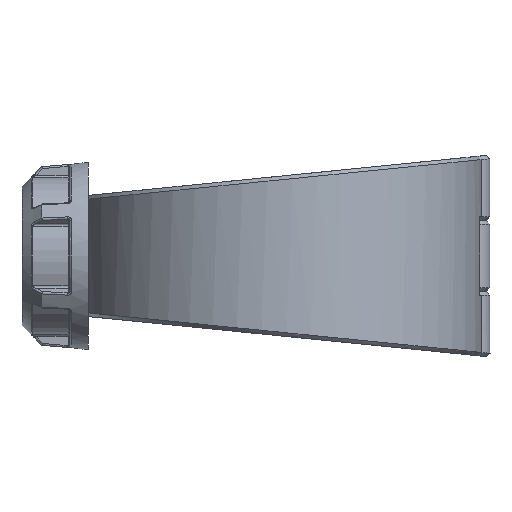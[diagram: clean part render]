
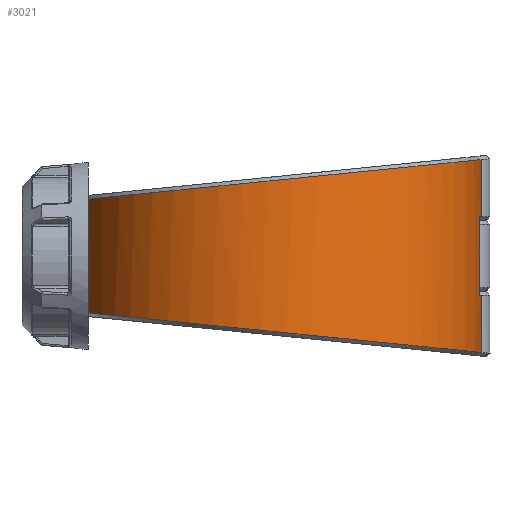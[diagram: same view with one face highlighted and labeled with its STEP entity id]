
A CAD part, left-side view. The second image highlights one B-rep face of the part: STEP entity #3021.
In plain terms, the highlighted cylindrical face has radius 110 mm (diameter 220 mm), a partial arc.
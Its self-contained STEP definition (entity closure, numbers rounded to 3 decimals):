
#212=FACE_OUTER_BOUND('',#416,.T.);
#416=EDGE_LOOP('',(#2055,#2056,#2057,#2058,#2059,#2060,#2061,#2062,#2063,
#2064,#2065,#2066));
#623=CIRCLE('',#3251,110.);
#626=CIRCLE('',#3256,110.);
#805=B_SPLINE_CURVE_WITH_KNOTS('',3,(#4512,#4513,#4514,#4515),
 .UNSPECIFIED.,.F.,.F.,(4,4),(-0.001,0.),.UNSPECIFIED.);
#806=B_SPLINE_CURVE_WITH_KNOTS('',3,(#4517,#4518,#4519,#4520),
 .UNSPECIFIED.,.F.,.F.,(4,4),(-3.053,-3.053),
 .UNSPECIFIED.);
#807=B_SPLINE_CURVE_WITH_KNOTS('',3,(#4521,#4522,#4523,#4524,#4525,#4526,
#4527,#4528,#4529,#4530),.UNSPECIFIED.,.F.,.F.,(4,1,1,1,1,1,1,4),(0.317,
0.657,1.057,1.458,1.859,2.26,
2.661,3.053),.UNSPECIFIED.);
#808=B_SPLINE_CURVE_WITH_KNOTS('',3,(#4532,#4533,#4534,#4535,#4536,#4537,
#4538,#4539,#4540,#4541),.UNSPECIFIED.,.F.,.F.,(4,1,1,1,1,1,1,4),(-3.053,
-2.661,-2.26,-1.859,-1.458,
-1.057,-0.657,-0.317),.UNSPECIFIED.);
#809=B_SPLINE_CURVE_WITH_KNOTS('',3,(#4543,#4544,#4545,#4546),
 .UNSPECIFIED.,.F.,.F.,(4,4),(3.053,3.053),
 .UNSPECIFIED.);
#810=B_SPLINE_CURVE_WITH_KNOTS('',3,(#4548,#4549,#4550,#4551),
 .UNSPECIFIED.,.F.,.F.,(4,4),(-0.354,-0.353),
 .UNSPECIFIED.);
#972=LINE('',#4391,#1093);
#979=LINE('',#4446,#1100);
#985=LINE('',#4510,#1106);
#986=LINE('',#4552,#1107);
#1093=VECTOR('',#3575,10.);
#1100=VECTOR('',#3592,10.);
#1106=VECTOR('',#3638,10.);
#1107=VECTOR('',#3639,10.);
#1216=VERTEX_POINT('',#4376);
#1217=VERTEX_POINT('',#4390);
#1229=VERTEX_POINT('',#4440);
#1230=VERTEX_POINT('',#4445);
#1236=VERTEX_POINT('',#4466);
#1239=VERTEX_POINT('',#4487);
#1243=VERTEX_POINT('',#4509);
#1244=VERTEX_POINT('',#4511);
#1245=VERTEX_POINT('',#4516);
#1246=VERTEX_POINT('',#4531);
#1247=VERTEX_POINT('',#4542);
#1248=VERTEX_POINT('',#4547);
#1510=EDGE_CURVE('',#1216,#1217,#972,.T.);
#1524=EDGE_CURVE('',#1229,#1230,#979,.T.);
#1537=EDGE_CURVE('',#1236,#1229,#623,.T.);
#1542=EDGE_CURVE('',#1230,#1239,#626,.T.);
#1548=EDGE_CURVE('',#1243,#1236,#985,.T.);
#1549=EDGE_CURVE('',#1244,#1243,#805,.T.);
#1550=EDGE_CURVE('',#1244,#1245,#806,.T.);
#1551=EDGE_CURVE('',#1217,#1245,#807,.T.);
#1552=EDGE_CURVE('',#1246,#1216,#808,.T.);
#1553=EDGE_CURVE('',#1246,#1247,#809,.T.);
#1554=EDGE_CURVE('',#1248,#1247,#810,.T.);
#1555=EDGE_CURVE('',#1239,#1248,#986,.T.);
#2055=ORIENTED_EDGE('',*,*,#1542,.F.);
#2056=ORIENTED_EDGE('',*,*,#1524,.F.);
#2057=ORIENTED_EDGE('',*,*,#1537,.F.);
#2058=ORIENTED_EDGE('',*,*,#1548,.F.);
#2059=ORIENTED_EDGE('',*,*,#1549,.F.);
#2060=ORIENTED_EDGE('',*,*,#1550,.T.);
#2061=ORIENTED_EDGE('',*,*,#1551,.F.);
#2062=ORIENTED_EDGE('',*,*,#1510,.F.);
#2063=ORIENTED_EDGE('',*,*,#1552,.F.);
#2064=ORIENTED_EDGE('',*,*,#1553,.T.);
#2065=ORIENTED_EDGE('',*,*,#1554,.F.);
#2066=ORIENTED_EDGE('',*,*,#1555,.F.);
#2962=CYLINDRICAL_SURFACE('',#3261,110.);
#3021=ADVANCED_FACE('',(#212),#2962,.T.);
#3251=AXIS2_PLACEMENT_3D('',#4482,#3614,#3615);
#3256=AXIS2_PLACEMENT_3D('',#4496,#3624,#3625);
#3261=AXIS2_PLACEMENT_3D('',#4508,#3636,#3637);
#3575=DIRECTION('',(0.,0.,1.));
#3592=DIRECTION('',(0.,0.,-1.));
#3614=DIRECTION('center_axis',(0.,0.,-1.));
#3615=DIRECTION('ref_axis',(0.312,-0.95,0.));
#3624=DIRECTION('center_axis',(0.,0.,1.));
#3625=DIRECTION('ref_axis',(0.312,-0.95,0.));
#3636=DIRECTION('center_axis',(0.,0.,1.));
#3637=DIRECTION('ref_axis',(-0.312,0.95,0.));
#3638=DIRECTION('',(0.,0.,-1.));
#3639=DIRECTION('',(0.,0.,-1.));
#4376=CARTESIAN_POINT('',(-34.347,104.5,-30.999));
#4390=CARTESIAN_POINT('',(-34.347,104.5,30.999));
#4391=CARTESIAN_POINT('',(-34.347,104.5,0.));
#4440=CARTESIAN_POINT('',(-15.981,-108.833,21.25));
#4445=CARTESIAN_POINT('',(-15.981,-108.833,-21.25));
#4446=CARTESIAN_POINT('',(-15.981,-108.833,0.));
#4466=CARTESIAN_POINT('',(-9.723,-109.569,21.25));
#4482=CARTESIAN_POINT('Origin',(0.,0.,21.25));
#4487=CARTESIAN_POINT('',(-9.723,-109.569,-21.25));
#4496=CARTESIAN_POINT('Origin',(0.,0.,-21.25));
#4508=CARTESIAN_POINT('Origin',(0.,0.,0.));
#4509=CARTESIAN_POINT('',(-9.723,-109.569,52.508));
#4510=CARTESIAN_POINT('',(-9.723,-109.569,0.));
#4511=CARTESIAN_POINT('',(-9.714,-109.57,52.515));
#4512=CARTESIAN_POINT('Ctrl Pts',(-9.714,-109.57,52.515));
#4513=CARTESIAN_POINT('Ctrl Pts',(-9.717,-109.57,52.512));
#4514=CARTESIAN_POINT('Ctrl Pts',(-9.72,-109.57,52.51));
#4515=CARTESIAN_POINT('Ctrl Pts',(-9.723,-109.569,52.508));
#4516=CARTESIAN_POINT('',(-9.723,-109.569,52.514));
#4517=CARTESIAN_POINT('Ctrl Pts',(-9.714,-109.57,52.515));
#4518=CARTESIAN_POINT('Ctrl Pts',(-9.717,-109.57,52.514));
#4519=CARTESIAN_POINT('Ctrl Pts',(-9.72,-109.57,52.514));
#4520=CARTESIAN_POINT('Ctrl Pts',(-9.723,-109.569,52.514));
#4521=CARTESIAN_POINT('Ctrl Pts',(-34.347,104.498,30.999));
#4522=CARTESIAN_POINT('Ctrl Pts',(-46.192,100.598,31.39));
#4523=CARTESIAN_POINT('Ctrl Pts',(-70.572,87.689,32.686));
#4524=CARTESIAN_POINT('Ctrl Pts',(-98.524,55.339,35.933));
#4525=CARTESIAN_POINT('Ctrl Pts',(-112.294,12.479,40.238));
#4526=CARTESIAN_POINT('Ctrl Pts',(-108.27,-32.323,44.741));
#4527=CARTESIAN_POINT('Ctrl Pts',(-87.091,-71.975,48.73));
#4528=CARTESIAN_POINT('Ctrl Pts',(-52.411,-100.01,51.552));
#4529=CARTESIAN_POINT('Ctrl Pts',(-24.016,-108.3,52.387));
#4530=CARTESIAN_POINT('Ctrl Pts',(-9.723,-109.569,52.514));
#4531=CARTESIAN_POINT('',(-9.723,-109.569,-52.514));
#4532=CARTESIAN_POINT('Ctrl Pts',(-9.723,-109.569,-52.514));
#4533=CARTESIAN_POINT('Ctrl Pts',(-24.016,-108.3,-52.387));
#4534=CARTESIAN_POINT('Ctrl Pts',(-52.41,-100.011,-51.552));
#4535=CARTESIAN_POINT('Ctrl Pts',(-87.096,-71.977,-48.73));
#4536=CARTESIAN_POINT('Ctrl Pts',(-108.259,-32.321,-44.741));
#4537=CARTESIAN_POINT('Ctrl Pts',(-112.306,12.48,-40.238));
#4538=CARTESIAN_POINT('Ctrl Pts',(-98.513,55.334,-35.933));
#4539=CARTESIAN_POINT('Ctrl Pts',(-70.577,87.693,-32.685));
#4540=CARTESIAN_POINT('Ctrl Pts',(-46.193,100.599,-31.39));
#4541=CARTESIAN_POINT('Ctrl Pts',(-34.347,104.498,-30.999));
#4542=CARTESIAN_POINT('',(-9.714,-109.57,-52.515));
#4543=CARTESIAN_POINT('Ctrl Pts',(-9.723,-109.569,-52.514));
#4544=CARTESIAN_POINT('Ctrl Pts',(-9.72,-109.57,-52.514));
#4545=CARTESIAN_POINT('Ctrl Pts',(-9.717,-109.57,-52.514));
#4546=CARTESIAN_POINT('Ctrl Pts',(-9.714,-109.57,-52.515));
#4547=CARTESIAN_POINT('',(-9.723,-109.569,-52.508));
#4548=CARTESIAN_POINT('Ctrl Pts',(-9.722,-109.569,-52.508));
#4549=CARTESIAN_POINT('Ctrl Pts',(-9.719,-109.569,-52.51));
#4550=CARTESIAN_POINT('Ctrl Pts',(-9.717,-109.57,-52.512));
#4551=CARTESIAN_POINT('Ctrl Pts',(-9.714,-109.57,-52.514));
#4552=CARTESIAN_POINT('',(-9.723,-109.569,0.));
